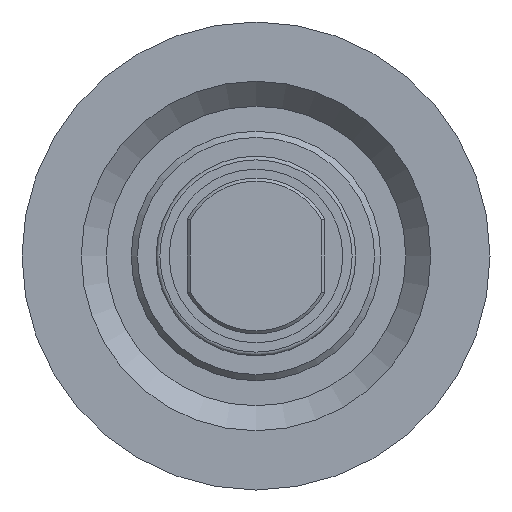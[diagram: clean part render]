
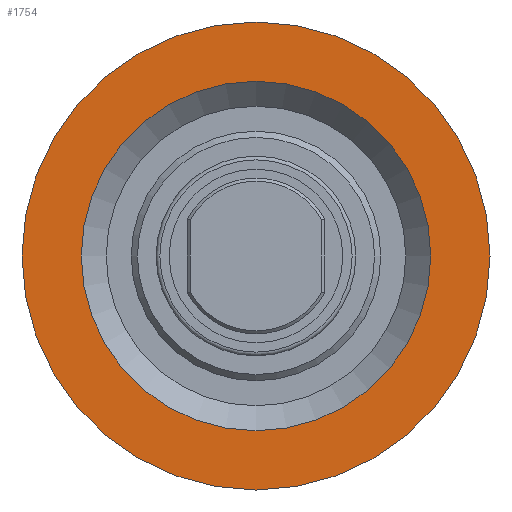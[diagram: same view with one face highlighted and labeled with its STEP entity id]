
A CAD part, left-side view. The second image highlights one B-rep face of the part: STEP entity #1754.
In plain terms, the highlighted planar face has unit normal (-1, 0, 0).
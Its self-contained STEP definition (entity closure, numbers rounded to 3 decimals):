
#157=FACE_BOUND('',#513,.T.);
#194=PLANE('',#2184);
#404=FACE_OUTER_BOUND('',#512,.T.);
#512=EDGE_LOOP('',(#1312,#1313));
#513=EDGE_LOOP('',(#1314,#1315));
#655=CIRCLE('',#2151,37.5);
#656=CIRCLE('',#2152,37.5);
#676=CIRCLE('',#2182,28.);
#677=CIRCLE('',#2183,28.);
#803=VERTEX_POINT('',#3070);
#804=VERTEX_POINT('',#3072);
#824=VERTEX_POINT('',#3129);
#825=VERTEX_POINT('',#3131);
#993=EDGE_CURVE('',#803,#804,#655,.T.);
#994=EDGE_CURVE('',#804,#803,#656,.T.);
#1021=EDGE_CURVE('',#825,#824,#676,.T.);
#1022=EDGE_CURVE('',#824,#825,#677,.T.);
#1312=ORIENTED_EDGE('',*,*,#994,.F.);
#1313=ORIENTED_EDGE('',*,*,#993,.F.);
#1314=ORIENTED_EDGE('',*,*,#1021,.T.);
#1315=ORIENTED_EDGE('',*,*,#1022,.T.);
#1754=ADVANCED_FACE('',(#404,#157),#194,.T.);
#2151=AXIS2_PLACEMENT_3D('',#3073,#2462,#2463);
#2152=AXIS2_PLACEMENT_3D('',#3074,#2464,#2465);
#2182=AXIS2_PLACEMENT_3D('',#3132,#2531,#2532);
#2183=AXIS2_PLACEMENT_3D('',#3133,#2533,#2534);
#2184=AXIS2_PLACEMENT_3D('',#3134,#2535,#2536);
#2462=DIRECTION('center_axis',(1.,0.,0.));
#2463=DIRECTION('ref_axis',(0.,0.,-1.));
#2464=DIRECTION('center_axis',(1.,0.,0.));
#2465=DIRECTION('ref_axis',(0.,0.,-1.));
#2531=DIRECTION('center_axis',(1.,0.,0.));
#2532=DIRECTION('ref_axis',(0.,0.,-1.));
#2533=DIRECTION('center_axis',(1.,0.,0.));
#2534=DIRECTION('ref_axis',(0.,0.,-1.));
#2535=DIRECTION('center_axis',(-1.,0.,0.));
#2536=DIRECTION('ref_axis',(0.,0.,1.));
#3070=CARTESIAN_POINT('',(-9.,-37.5,0.));
#3072=CARTESIAN_POINT('',(-9.,37.5,0.));
#3073=CARTESIAN_POINT('Origin',(-9.,0.,0.));
#3074=CARTESIAN_POINT('Origin',(-9.,0.,0.));
#3129=CARTESIAN_POINT('',(-9.,-28.,0.));
#3131=CARTESIAN_POINT('',(-9.,28.,0.));
#3132=CARTESIAN_POINT('Origin',(-9.,0.,
0.));
#3133=CARTESIAN_POINT('Origin',(-9.,0.,
0.));
#3134=CARTESIAN_POINT('Origin',(-9.,37.5,0.));
